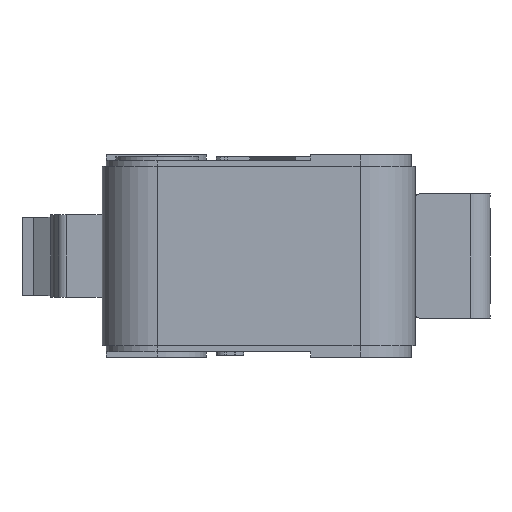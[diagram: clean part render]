
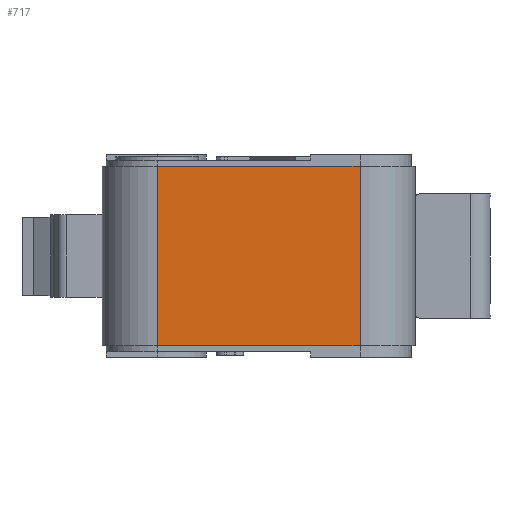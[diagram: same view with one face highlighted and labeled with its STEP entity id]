
A CAD part, left-side view. The second image highlights one B-rep face of the part: STEP entity #717.
In plain terms, the highlighted planar face has unit normal (-1, 0, 0).
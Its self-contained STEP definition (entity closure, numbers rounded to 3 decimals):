
#650=CARTESIAN_POINT('',(-13.9,5.15,-4.55));
#651=VERTEX_POINT('',#650);
#652=CARTESIAN_POINT('',(-13.9,5.15,4.55));
#653=VERTEX_POINT('',#652);
#654=CARTESIAN_POINT('',(-13.9,5.15,-4.55));
#655=DIRECTION('',(0.0,0.0,1.0));
#656=VECTOR('',#655,9.1);
#657=LINE('',#654,#656);
#658=EDGE_CURVE('',#651,#653,#657,.T.);
#687=CARTESIAN_POINT('',(-13.9,-5.15,-4.55));
#688=DIRECTION('',(-1.0,0.0,0.0));
#689=DIRECTION('',(0.0,0.0,1.0));
#690=AXIS2_PLACEMENT_3D('',#687,#688,#689);
#691=PLANE('',#690);
#692=CARTESIAN_POINT('',(-13.9,-5.15,4.55));
#693=VERTEX_POINT('',#692);
#694=CARTESIAN_POINT('',(-13.9,-5.15,4.55));
#695=DIRECTION('',(0.0,1.0,0.0));
#696=VECTOR('',#695,10.3);
#697=LINE('',#694,#696);
#698=EDGE_CURVE('',#693,#653,#697,.T.);
#699=ORIENTED_EDGE('',*,*,#698,.T.);
#700=ORIENTED_EDGE('',*,*,#658,.F.);
#701=CARTESIAN_POINT('',(-13.9,-5.15,-4.55));
#702=VERTEX_POINT('',#701);
#703=CARTESIAN_POINT('',(-13.9,5.15,-4.55));
#704=DIRECTION('',(0.0,-1.0,0.0));
#705=VECTOR('',#704,10.3);
#706=LINE('',#703,#705);
#707=EDGE_CURVE('',#651,#702,#706,.T.);
#708=ORIENTED_EDGE('',*,*,#707,.T.);
#709=CARTESIAN_POINT('',(-13.9,-5.15,-4.55));
#710=DIRECTION('',(0.0,0.0,1.0));
#711=VECTOR('',#710,9.1);
#712=LINE('',#709,#711);
#713=EDGE_CURVE('',#702,#693,#712,.T.);
#714=ORIENTED_EDGE('',*,*,#713,.T.);
#715=EDGE_LOOP('',(#699,#700,#708,#714));
#716=FACE_OUTER_BOUND('',#715,.T.);
#717=ADVANCED_FACE('',(#716),#691,.T.);
